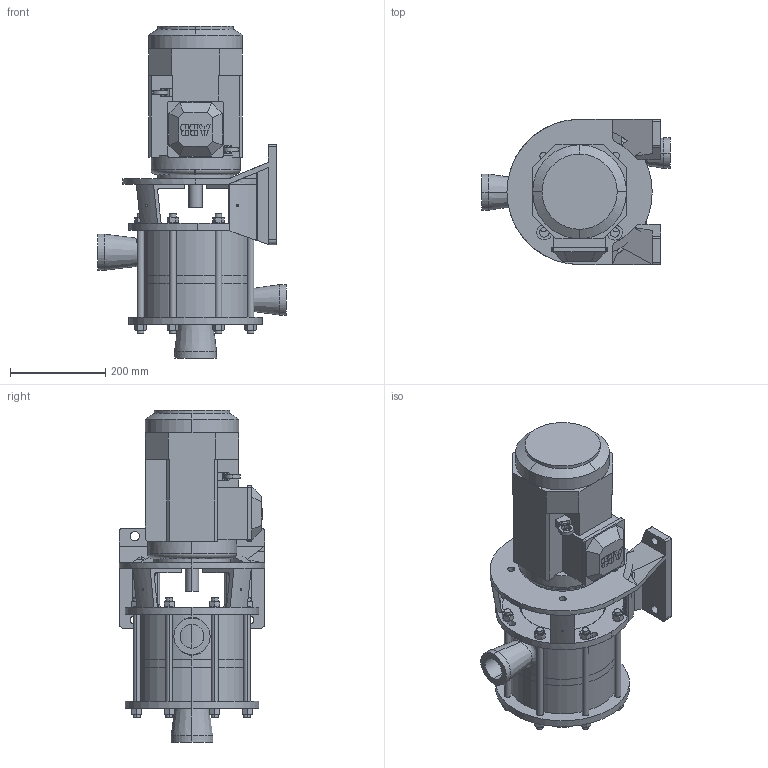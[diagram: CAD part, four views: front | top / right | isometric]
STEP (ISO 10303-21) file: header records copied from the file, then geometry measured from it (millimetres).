
FILE_DESCRIPTION((''),'2;1');
FILE_NAME('MJ40--100 frame.stp','2010-08-04T14:26:43',(''),(''),'AutoCAD STEP 2000i','AutoCAD 2000i',', , ');
FILE_SCHEMA(('CONFIG_CONTROL_DESIGN'));
Length unit declared in the file: millimetre
Products named in the file (3): MJ40--100 FRAME A; A2.4976 100 flange; A2.4969 90 flange
Assembly tree (2 placements, depth 2):
  MJ40--100 FRAME A
    A2.4976 100 flange
    A2.4969 90 flange
Bounding box: 395 x 305 x 697 mm (x, y, z)
Volume: 21398085.1 mm3; surface area: 1434093.4 mm2
Topology: 14 solids, 110 shells, 1379 faces, 3659 edges, 2354 vertices
Faces by surface type: cylinder 485, torus 388, plane 364, cone 104, bspline 38
Entity records: 47060 total; most frequent: CARTESIAN_POINT 11550, DIRECTION 8087, ORIENTED_EDGE 7286, EDGE_CURVE 3643, AXIS2_PLACEMENT_3D 3461, VERTEX_POINT 2354, CIRCLE 2081, EDGE_LOOP 1521
